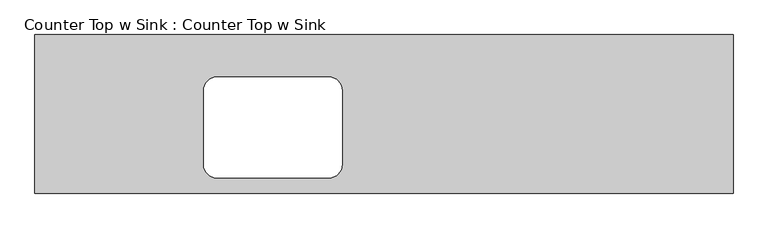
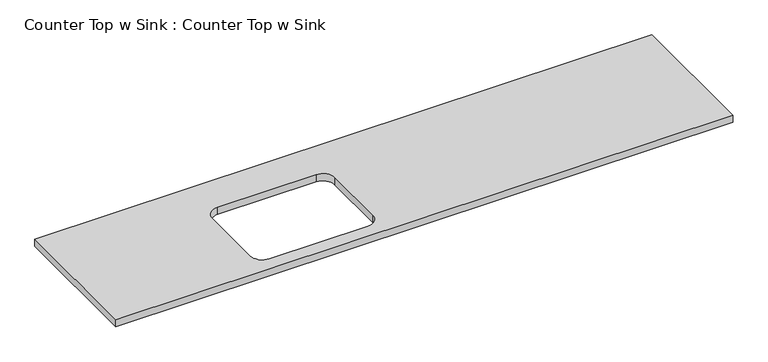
"""IFC4 building model written with IfcOpenShell, lengths in millimetres: furniture geometry, Counter Top w Sink : Counter Top w Sink."""

from ifc_helpers import new_model, si_unit, point, frame, frame_2d, origin, place, context, project, spatial, polyline, circle_curve, trimmed, segment, composite_curve, outline, extrude, source, transform, mapped, element, save


def counter_top_w_sink_counter_top_w_sink_ceea6664(model_context):
    return source(origin(), model_context, "Body", "SweptSolid", [
        extrude(outline(polyline([(2084.7003264, 0.0), (2084.7003264, -600.0), (-555.2996736, -600.0), (-555.2996736, 0.0), (2084.7003264, 0.0)]), holes=[composite_curve([segment(trimmed(circle_curve(frame_2d((133.6003264, -210.8)), 50.8), [point((133.6003264, -160.0))], [point((82.8003264, -210.8))], True, "CARTESIAN"), True, "CONTINUOUS"), segment(polyline([(82.8003264, -210.8), (82.8003264, -491.8)]), True, "CONTINUOUS"), segment(trimmed(circle_curve(frame_2d((133.6003264, -491.8)), 50.8), [point((82.8003264, -491.8))], [point((133.6003264, -542.6))], True, "CARTESIAN"), True, "CONTINUOUS"), segment(polyline([(133.6003264, -542.6), (555.8003264, -542.6)]), True, "CONTINUOUS"), segment(trimmed(circle_curve(frame_2d((555.8003264, -491.8)), 50.8), [point((555.8003264, -542.6))], [point((606.6003264, -491.8))], True, "CARTESIAN"), True, "CONTINUOUS"), segment(polyline([(606.6003264, -491.8), (606.6003264, -210.8)]), True, "CONTINUOUS"), segment(trimmed(circle_curve(frame_2d((555.8003264, -210.8)), 50.8), [point((606.6003264, -210.8))], [point((555.8003264, -160.0))], True, "CARTESIAN"), True, "CONTINUOUS"), segment(polyline([(555.8003264, -160.0), (133.6003264, -160.0)]), True, "CONTINUOUS")], self_intersect=False)]), frame((0.0, 0.0, 868.0), z_axis=(0.0, 0.0, 1.0), x_axis=(1.0, 0.0, 0.0)), (0.0, 0.0, 1.0), 32.0),
    ])


if __name__ == "__main__":
    model = new_model("IFC4")
    model_context = context("Model", 3, world=origin())
    ifc_project = project(units=[si_unit("LENGTHUNIT", "METRE", prefix="MILLI")], contexts=[model_context])
    site = spatial("IfcSite", under=ifc_project)
    building = spatial("IfcBuilding", under=site)
    placement = place(None, origin())
    counter_top_w_sink_counter_top_w_sink_shape = counter_top_w_sink_counter_top_w_sink_ceea6664(model_context)
    element("IfcFurniture", 1, ObjectType="Counter Top w Sink : Counter Top w Sink", at=placement, inside=building, context=model_context, shape_type="MappedRepresentation", body=[
        mapped(counter_top_w_sink_counter_top_w_sink_shape, transform((0.0, 0.0, 0.0), x_axis=(1.0, 0.0, 0.0), y_axis=(0.0, 1.0, 0.0), z_axis=(0.0, 0.0, 1.0))),
    ])
    save(model, "model.ifc")
